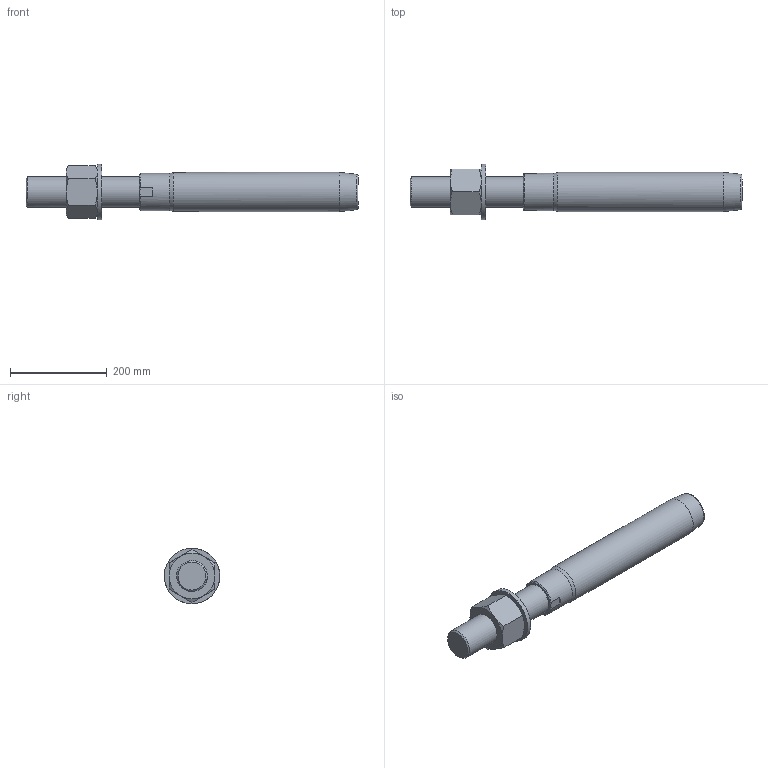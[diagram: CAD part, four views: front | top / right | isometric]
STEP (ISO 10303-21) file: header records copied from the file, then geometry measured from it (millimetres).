
FILE_DESCRIPTION(/* description */ (''),/* implementation_level */ '2;1');
FILE_NAME(/* name */ 'FLT 42_42CrMo4',/* time_stamp */ '2023-05-23T15:57:55+02:00',/* author */ (''),/* organization */ (''),/* preprocessor_version */ 'ST-DEVELOPER v16.5',/* originating_system */ 'Rhino 7.22',/* authorisation */ '');
FILE_SCHEMA (('CONFIG_CONTROL_DESIGN'));
Length unit declared in the file: millimetre
Products named in the file (1): Document
Bounding box: 688 x 114.95 x 114.94 mm (x, y, z)
Volume: 3428688.9 mm3; surface area: 230208.5 mm2
Topology: 3 solids, 3 shells, 42 faces, 102 edges, 67 vertices
Faces by surface type: bspline 19, plane 17, cylinder 6
Full cylindrical faces by diameter (mm): 57.505 x1, 64 x1, 66 x1, 77 x1, 81 x1, 115 x1
Entity records: 1559 total; most frequent: CARTESIAN_POINT 861, ORIENTED_EDGE 204, EDGE_CURVE 102, VERTEX_POINT 67, EDGE_LOOP 47, ADVANCED_FACE 42, FACE_OUTER_BOUND 42, DIRECTION 27
